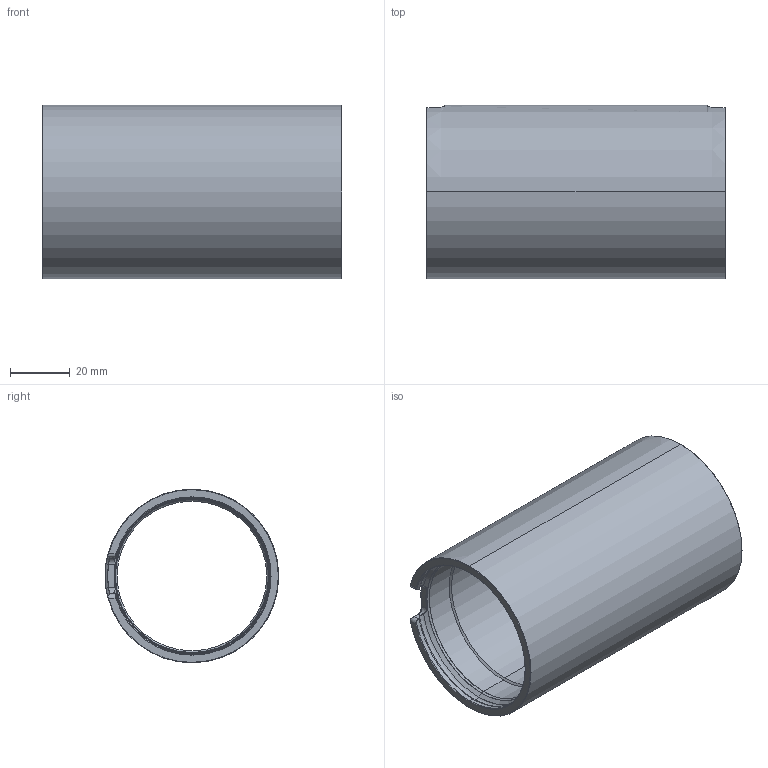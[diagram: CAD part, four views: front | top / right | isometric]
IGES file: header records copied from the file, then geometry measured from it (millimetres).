
Start section: SolidWorks IGES file using analytic representation for surfaces
Global section: file name: C:\Users\Achilles\Desktop\wte2 2020\WTE2-LOCKING-TUBE-R1\WTE2-LOCKING-TUBE-R1.IGS; native system: SolidWorks 2020; preprocessor: SolidWorks 2020; author: Achilles; date: 191112.111903; units: millimetre
Bounding box: 100 x 57.97 x 58 mm (x, y, z)
Surface area: 35067.7 mm2 (no closed solid volume)
Topology: 0 solids, 0 shells, 76 faces, 808 edges, 808 vertices
Faces by surface type: revolution 44, bspline 32
